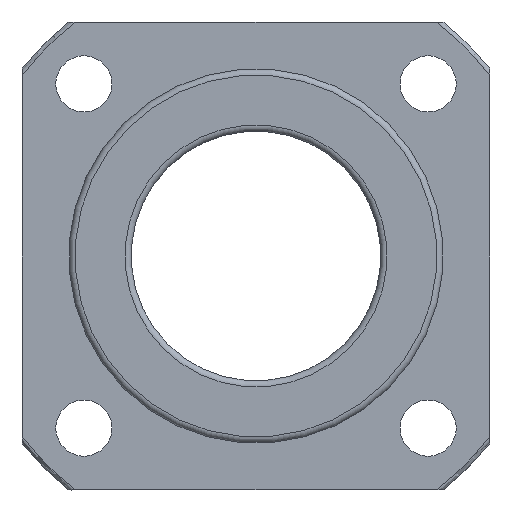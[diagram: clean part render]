
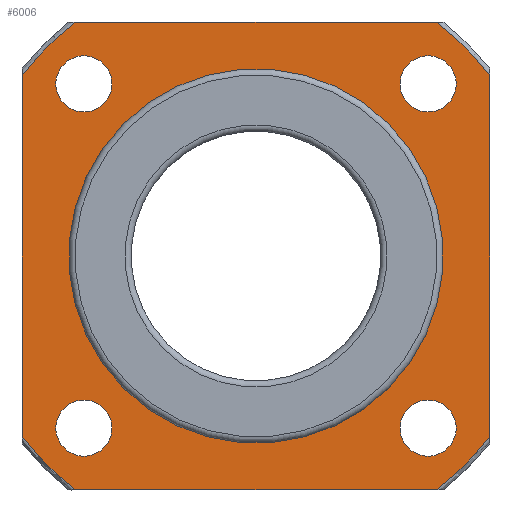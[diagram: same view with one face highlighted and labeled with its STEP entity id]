
A CAD part, left-side view. The second image highlights one B-rep face of the part: STEP entity #6006.
In plain terms, the highlighted planar face has unit normal (-1, 0, 0).
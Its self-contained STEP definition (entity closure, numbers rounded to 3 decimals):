
#117=CIRCLE('',#6373,47.35);
#120=CIRCLE('',#6379,47.35);
#124=CIRCLE('',#6386,47.35);
#127=CIRCLE('',#6393,47.35);
#128=CIRCLE('',#6395,4.5);
#129=CIRCLE('',#6396,4.5);
#130=CIRCLE('',#6397,4.5);
#131=CIRCLE('',#6398,4.5);
#132=CIRCLE('',#6399,30.);
#588=ORIENTED_EDGE('',*,*,#2313,.T.);
#589=ORIENTED_EDGE('',*,*,#2314,.T.);
#590=ORIENTED_EDGE('',*,*,#2315,.T.);
#591=ORIENTED_EDGE('',*,*,#2316,.T.);
#592=ORIENTED_EDGE('',*,*,#2317,.F.);
#593=ORIENTED_EDGE('',*,*,#2283,.T.);
#594=ORIENTED_EDGE('',*,*,#2318,.T.);
#595=ORIENTED_EDGE('',*,*,#2291,.T.);
#596=ORIENTED_EDGE('',*,*,#2319,.T.);
#597=ORIENTED_EDGE('',*,*,#2310,.T.);
#598=ORIENTED_EDGE('',*,*,#2320,.T.);
#599=ORIENTED_EDGE('',*,*,#2301,.T.);
#600=ORIENTED_EDGE('',*,*,#2321,.T.);
#2283=EDGE_CURVE('',#3150,#3149,#117,.T.);
#2291=EDGE_CURVE('',#3155,#3156,#120,.T.);
#2301=EDGE_CURVE('',#3163,#3164,#124,.T.);
#2310=EDGE_CURVE('',#3168,#3169,#127,.T.);
#2313=EDGE_CURVE('',#3170,#3170,#128,.T.);
#2314=EDGE_CURVE('',#3171,#3171,#129,.T.);
#2315=EDGE_CURVE('',#3172,#3172,#130,.T.);
#2316=EDGE_CURVE('',#3173,#3173,#131,.T.);
#2317=EDGE_CURVE('',#3174,#3174,#132,.T.);
#2318=EDGE_CURVE('',#3149,#3155,#3685,.T.);
#2319=EDGE_CURVE('',#3156,#3168,#3686,.T.);
#2320=EDGE_CURVE('',#3169,#3163,#3687,.T.);
#2321=EDGE_CURVE('',#3164,#3150,#3688,.T.);
#3149=VERTEX_POINT('',#9428);
#3150=VERTEX_POINT('',#9430);
#3155=VERTEX_POINT('',#9458);
#3156=VERTEX_POINT('',#9459);
#3163=VERTEX_POINT('',#9495);
#3164=VERTEX_POINT('',#9496);
#3168=VERTEX_POINT('',#9529);
#3169=VERTEX_POINT('',#9530);
#3170=VERTEX_POINT('',#9543);
#3171=VERTEX_POINT('',#9545);
#3172=VERTEX_POINT('',#9547);
#3173=VERTEX_POINT('',#9549);
#3174=VERTEX_POINT('',#9551);
#3685=LINE('',#9552,#4381);
#3686=LINE('',#9553,#4382);
#3687=LINE('',#9554,#4383);
#3688=LINE('',#9555,#4384);
#4381=VECTOR('',#6995,1000.);
#4382=VECTOR('',#6996,1000.);
#4383=VECTOR('',#6997,1000.);
#4384=VECTOR('',#6998,1000.);
#4923=EDGE_LOOP('',(#588));
#4924=EDGE_LOOP('',(#589));
#4925=EDGE_LOOP('',(#590));
#4926=EDGE_LOOP('',(#591));
#4927=EDGE_LOOP('',(#592));
#4928=EDGE_LOOP('',(#593,#594,#595,#596,#597,#598,#599,#600));
#5353=FACE_BOUND('',#4923,.T.);
#5354=FACE_BOUND('',#4924,.T.);
#5355=FACE_BOUND('',#4925,.T.);
#5356=FACE_BOUND('',#4926,.T.);
#5357=FACE_BOUND('',#4927,.T.);
#5358=FACE_BOUND('',#4928,.T.);
#5726=PLANE('',#6394);
#6006=ADVANCED_FACE('',(#5353,#5354,#5355,#5356,#5357,#5358),#5726,.F.);
#6373=AXIS2_PLACEMENT_3D('',#9429,#6935,#6936);
#6379=AXIS2_PLACEMENT_3D('',#9457,#6949,#6950);
#6386=AXIS2_PLACEMENT_3D('',#9494,#6965,#6966);
#6393=AXIS2_PLACEMENT_3D('',#9528,#6981,#6982);
#6394=AXIS2_PLACEMENT_3D('',#9541,#6983,#6984);
#6395=AXIS2_PLACEMENT_3D('',#9542,#6985,#6986);
#6396=AXIS2_PLACEMENT_3D('',#9544,#6987,#6988);
#6397=AXIS2_PLACEMENT_3D('',#9546,#6989,#6990);
#6398=AXIS2_PLACEMENT_3D('',#9548,#6991,#6992);
#6399=AXIS2_PLACEMENT_3D('',#9550,#6993,#6994);
#6935=DIRECTION('',(-1.,0.,0.));
#6936=DIRECTION('',(0.,-0.707,0.707));
#6949=DIRECTION('',(-1.,0.,0.));
#6950=DIRECTION('',(0.,-0.707,0.707));
#6965=DIRECTION('',(-1.,0.,0.));
#6966=DIRECTION('',(0.,-0.707,0.707));
#6981=DIRECTION('',(-1.,0.,0.));
#6982=DIRECTION('',(0.,-0.707,0.707));
#6983=DIRECTION('',(1.,0.,0.));
#6984=DIRECTION('',(0.,0.707,-0.707));
#6985=DIRECTION('',(1.,0.,0.));
#6986=DIRECTION('',(0.,0.707,-0.707));
#6987=DIRECTION('',(1.,0.,0.));
#6988=DIRECTION('',(0.,0.707,-0.707));
#6989=DIRECTION('',(1.,0.,0.));
#6990=DIRECTION('',(0.,0.707,-0.707));
#6991=DIRECTION('',(1.,0.,0.));
#6992=DIRECTION('',(0.,0.707,-0.707));
#6993=DIRECTION('',(-1.,0.,0.));
#6994=DIRECTION('',(0.,-0.707,0.707));
#6995=DIRECTION('',(0.,0.,-1.));
#6996=DIRECTION('',(0.,-1.,0.));
#6997=DIRECTION('',(0.,0.,1.));
#6998=DIRECTION('',(0.,1.,0.));
#9428=CARTESIAN_POINT('',(-13.,37.5,28.91));
#9429=CARTESIAN_POINT('',(-13.,0.,0.));
#9430=CARTESIAN_POINT('',(-13.,28.91,37.5));
#9457=CARTESIAN_POINT('',(-13.,0.,0.));
#9458=CARTESIAN_POINT('',(-13.,37.5,-28.91));
#9459=CARTESIAN_POINT('',(-13.,28.91,-37.5));
#9494=CARTESIAN_POINT('',(-13.,0.,0.));
#9495=CARTESIAN_POINT('',(-13.,-37.5,28.91));
#9496=CARTESIAN_POINT('',(-13.,-28.91,37.5));
#9528=CARTESIAN_POINT('',(-13.,0.,0.));
#9529=CARTESIAN_POINT('',(-13.,-28.91,-37.5));
#9530=CARTESIAN_POINT('',(-13.,-37.5,-28.91));
#9541=CARTESIAN_POINT('',(-13.,33.482,33.482));
#9542=CARTESIAN_POINT('',(-13.,27.577,-27.577));
#9543=CARTESIAN_POINT('',(-13.,30.759,-30.759));
#9544=CARTESIAN_POINT('',(-13.,-27.577,-27.577));
#9545=CARTESIAN_POINT('',(-13.,-24.395,-30.759));
#9546=CARTESIAN_POINT('',(-13.,-27.577,27.577));
#9547=CARTESIAN_POINT('',(-13.,-24.395,24.395));
#9548=CARTESIAN_POINT('',(-13.,27.577,27.577));
#9549=CARTESIAN_POINT('',(-13.,30.759,24.395));
#9550=CARTESIAN_POINT('',(-13.,0.,0.));
#9551=CARTESIAN_POINT('',(-13.,-21.213,21.213));
#9552=CARTESIAN_POINT('',(-13.,37.5,33.482));
#9553=CARTESIAN_POINT('',(-13.,33.482,-37.5));
#9554=CARTESIAN_POINT('',(-13.,-37.5,33.482));
#9555=CARTESIAN_POINT('',(-13.,33.482,37.5));
